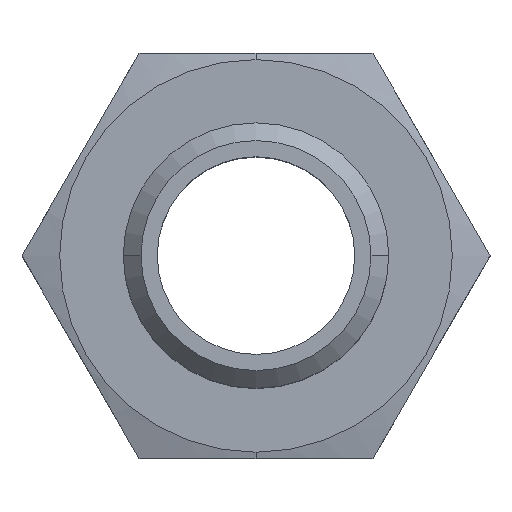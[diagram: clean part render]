
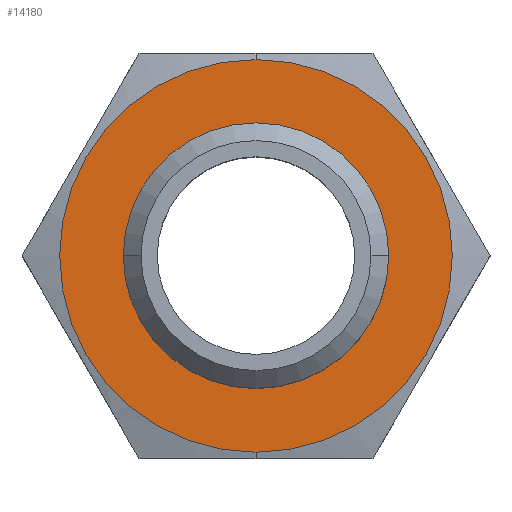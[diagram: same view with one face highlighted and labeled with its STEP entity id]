
A CAD part, top view. The second image highlights one B-rep face of the part: STEP entity #14180.
In plain terms, the highlighted planar face has unit normal (0, 0, 1).
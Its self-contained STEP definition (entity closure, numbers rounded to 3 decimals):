
#13830=CARTESIAN_POINT('',(0.,0.,8.5));
#13840=DIRECTION('',(0.,0.,1.));
#13850=DIRECTION('',(1.,0.,0.));
#13860=AXIS2_PLACEMENT_3D('',#13830,#13840,#13850);
#13870=PLANE('',#13860);
#13880=CARTESIAN_POINT('',(37.916,68.537,8.5));
#13890=DIRECTION('',(0.,0.,-1.));
#13900=DIRECTION('',(0.,-1.,0.));
#13910=AXIS2_PLACEMENT_3D('',#13880,#13890,#13900);
#13920=CIRCLE('',#13910,15.5);
#13930=CARTESIAN_POINT('',(37.916,53.037,8.5));
#13940=VERTEX_POINT('',#13930);
#13950=CARTESIAN_POINT('',(37.916,84.037,8.5));
#13960=VERTEX_POINT('',#13950);
#13970=EDGE_CURVE('',#13940,#13960,#13920,.T.);
#13980=ORIENTED_EDGE('',*,*,#13970,.F.);
#13990=EDGE_CURVE('',#13960,#13940,#13920,.T.);
#14000=ORIENTED_EDGE('',*,*,#13990,.F.);
#14010=EDGE_LOOP('',(#14000,#13980));
#14020=FACE_OUTER_BOUND('',#14010,.T.);
#14030=CARTESIAN_POINT('',(37.916,68.537,8.5));
#14040=DIRECTION('',(0.,0.,1.));
#14050=DIRECTION('',(1.,0.,0.));
#14060=AXIS2_PLACEMENT_3D('',#14030,#14040,#14050);
#14070=CIRCLE('',#14060,10.478);
#14080=CARTESIAN_POINT('',(48.393,68.537,8.5));
#14090=VERTEX_POINT('',#14080);
#14100=CARTESIAN_POINT('',(27.438,68.537,8.5));
#14110=VERTEX_POINT('',#14100);
#14120=EDGE_CURVE('',#14090,#14110,#14070,.T.);
#14130=ORIENTED_EDGE('',*,*,#14120,.F.);
#14140=EDGE_CURVE('',#14110,#14090,#14070,.T.);
#14150=ORIENTED_EDGE('',*,*,#14140,.F.);
#14160=EDGE_LOOP('',(#14150,#14130));
#14170=FACE_BOUND('',#14160,.T.);
#14180=ADVANCED_FACE('',(#14020,#14170),#13870,.T.);
